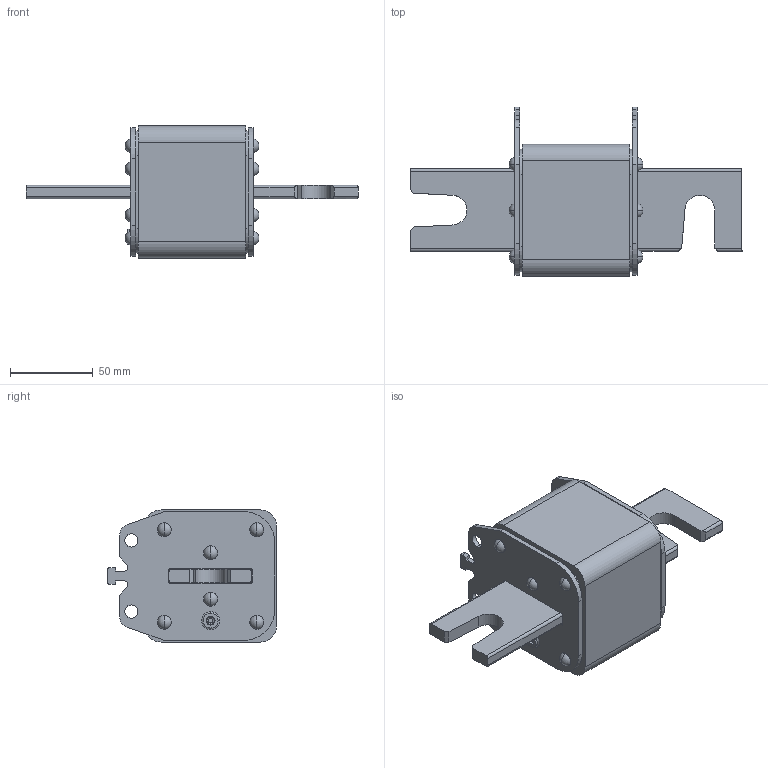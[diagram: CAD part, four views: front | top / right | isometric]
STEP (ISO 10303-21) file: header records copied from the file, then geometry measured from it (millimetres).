
FILE_DESCRIPTION (( 'STEP AP214' ), '1' );
FILE_NAME ('ﾏﾍﾁ7-690_1000-0-800ﾀ-ﾓﾕﾋ3-ﾊﾝﾀﾇ.STEP', '2023-04-07T08:35:16', ( '' ), ( '' ), 'SwSTEP 2.0', 'SolidWorks 2018', '' );
FILE_SCHEMA (( 'AUTOMOTIVE_DESIGN' ));
Length unit declared in the file: millimetre
Products named in the file (1): ﾏﾍﾁ7-690_1000-0-800ﾀ-ﾓﾕﾋ3-ﾊﾝﾀﾇ
Bounding box: 201 x 102.5 x 80 mm (x, y, z)
Volume: 508168.3 mm3; surface area: 59131.3 mm2
Topology: 1 solids, 19 shells, 375 faces, 892 edges, 576 vertices
Faces by surface type: cylinder 154, plane 141, torus 36, sphere 24, cone 20
Entity records: 15163 total; most frequent: DIRECTION 2078, CARTESIAN_POINT 1886, ORIENTED_EDGE 1784, EDGE_CURVE 892, AXIS2_PLACEMENT_3D 824, VERTEX_POINT 576, CIRCLE 448, LINE 430
